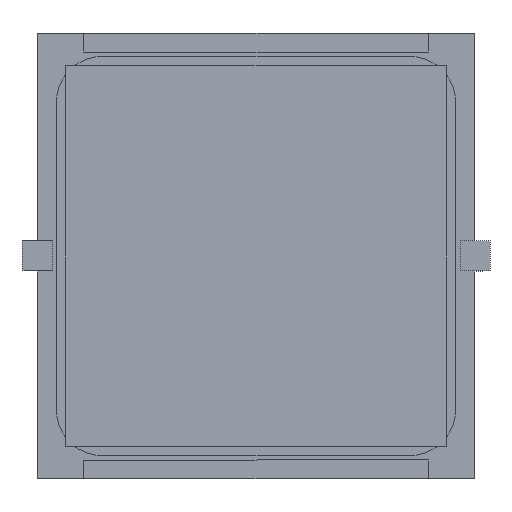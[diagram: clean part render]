
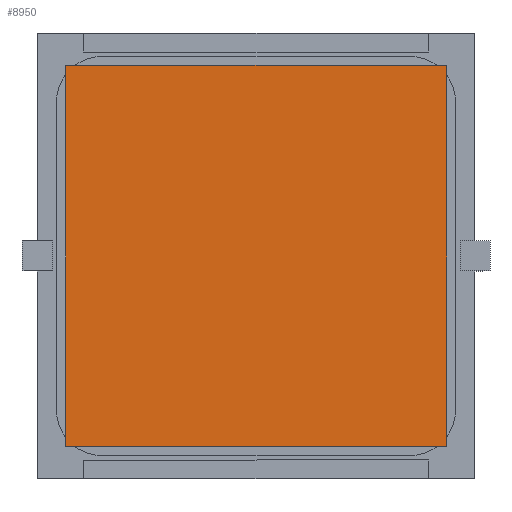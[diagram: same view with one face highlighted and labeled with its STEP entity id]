
A CAD part, front view. The second image highlights one B-rep face of the part: STEP entity #8950.
In plain terms, the highlighted planar face has unit normal (0, -1, 0).
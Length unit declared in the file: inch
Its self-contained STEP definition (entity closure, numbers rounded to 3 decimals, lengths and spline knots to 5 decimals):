
#202 = DIRECTION ( 'NONE',  ( 0., 1., 0. ) ) ;
#526 = VERTEX_POINT ( 'NONE', #568 ) ;
#568 = CARTESIAN_POINT ( 'NONE',  ( 0.5, -0.005, -0.5 ) ) ;
#1072 = DIRECTION ( 'NONE',  ( 0., 0., 1. ) ) ;
#1368 = VERTEX_POINT ( 'NONE', #5067 ) ;
#1523 = CARTESIAN_POINT ( 'NONE',  ( 0.5, -0.005, 0.5 ) ) ;
#1534 = LINE ( 'NONE', #6817, #10505 ) ;
#1715 = CARTESIAN_POINT ( 'NONE',  ( -0.5, -0.005, -0.5 ) ) ;
#1842 = AXIS2_PLACEMENT_3D ( 'NONE', #6413, #202, #1072 ) ;
#1863 = LINE ( 'NONE', #6373, #3722 ) ;
#2028 = VERTEX_POINT ( 'NONE', #1523 ) ;
#3404 = LINE ( 'NONE', #1715, #11084 ) ;
#3722 = VECTOR ( 'NONE', #8914, 39.37008 ) ;
#4354 = FACE_OUTER_BOUND ( 'NONE', #10960, .T. ) ;
#4388 = CARTESIAN_POINT ( 'NONE',  ( -0.5, -0.005, -0.5 ) ) ;
#4905 = ORIENTED_EDGE ( 'NONE', *, *, #8243, .F. ) ;
#4913 = DIRECTION ( 'NONE',  ( 0., 0., -1. ) ) ;
#5067 = CARTESIAN_POINT ( 'NONE',  ( -0.5, -0.005, 0.5 ) ) ;
#5193 = DIRECTION ( 'NONE',  ( -1., 0., 0. ) ) ;
#5218 = LINE ( 'NONE', #8741, #7881 ) ;
#6201 = DIRECTION ( 'NONE',  ( 0., 0., 1. ) ) ;
#6373 = CARTESIAN_POINT ( 'NONE',  ( -0.5, -0.005, 0.5 ) ) ;
#6413 = CARTESIAN_POINT ( 'NONE',  ( -0.5, -0.005, 0.5 ) ) ;
#6817 = CARTESIAN_POINT ( 'NONE',  ( 0.5, -0.005, -0.5 ) ) ;
#6989 = VERTEX_POINT ( 'NONE', #4388 ) ;
#7860 = PLANE ( 'NONE',  #1842 ) ;
#7881 = VECTOR ( 'NONE', #6201, 39.37008 ) ;
#8099 = ORIENTED_EDGE ( 'NONE', *, *, #10907, .F. ) ;
#8243 = EDGE_CURVE ( 'NONE', #2028, #526, #1534, .T. ) ;
#8610 = EDGE_CURVE ( 'NONE', #6989, #1368, #5218, .T. ) ;
#8741 = CARTESIAN_POINT ( 'NONE',  ( -0.5, -0.005, -0.5 ) ) ;
#8914 = DIRECTION ( 'NONE',  ( 1., 0., 0. ) ) ;
#8950 = ADVANCED_FACE ( 'NONE', ( #4354 ), #7860, .F. ) ;
#9743 = ORIENTED_EDGE ( 'NONE', *, *, #8610, .F. ) ;
#10057 = ORIENTED_EDGE ( 'NONE', *, *, #10639, .F. ) ;
#10505 = VECTOR ( 'NONE', #4913, 39.37008 ) ;
#10639 = EDGE_CURVE ( 'NONE', #1368, #2028, #1863, .T. ) ;
#10907 = EDGE_CURVE ( 'NONE', #526, #6989, #3404, .T. ) ;
#10960 = EDGE_LOOP ( 'NONE', ( #9743, #8099, #4905, #10057 ) ) ;
#11084 = VECTOR ( 'NONE', #5193, 39.37008 ) ;
